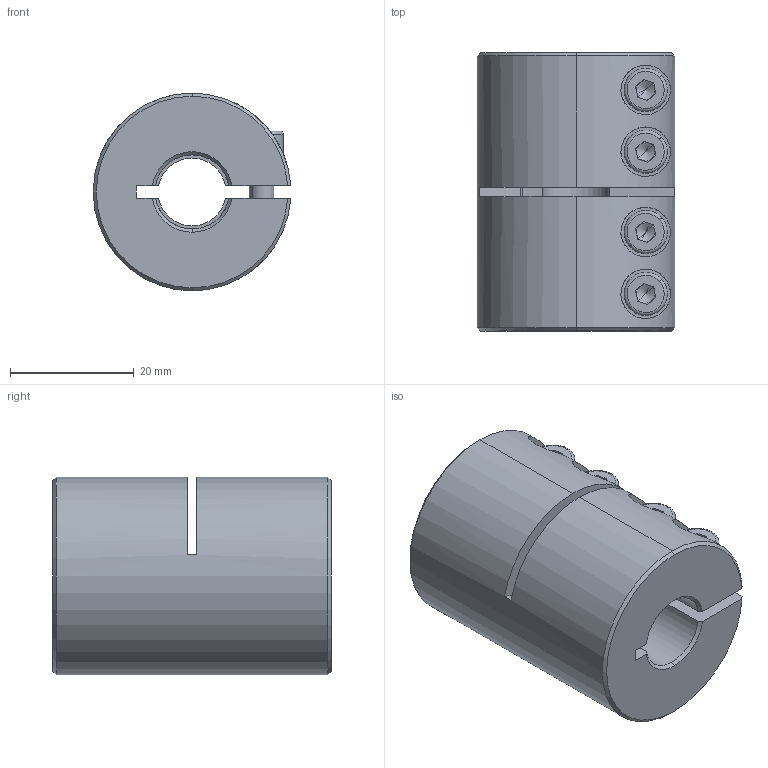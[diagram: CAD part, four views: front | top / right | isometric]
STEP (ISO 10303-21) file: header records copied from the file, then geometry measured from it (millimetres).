
FILE_DESCRIPTION (( 'STEP AP214' ), '1' );
FILE_NAME ('LL-B-D32L45-11-12½¨Ä£.STEP', '2022-07-21T07:09:41', ( '' ), ( '' ), 'SwSTEP 2.0', 'SolidWorks 2022', '' );
FILE_SCHEMA (( 'AUTOMOTIVE_DESIGN' ));
Length unit declared in the file: millimetre
Products named in the file (1): LL-B-D32L45-11-12膘耀
Bounding box: 31.97 x 45 x 32 mm (x, y, z)
Volume: 29104.3 mm3; surface area: 10773.8 mm2
Topology: 1 solids, 1 shells, 193 faces, 492 edges, 309 vertices
Faces by surface type: plane 88, cylinder 77, cone 20, torus 8
Entity records: 6357 total; most frequent: CARTESIAN_POINT 1583, DIRECTION 1037, ORIENTED_EDGE 968, EDGE_CURVE 484, AXIS2_PLACEMENT_3D 403, VERTEX_POINT 309, LINE 231, VECTOR 231
